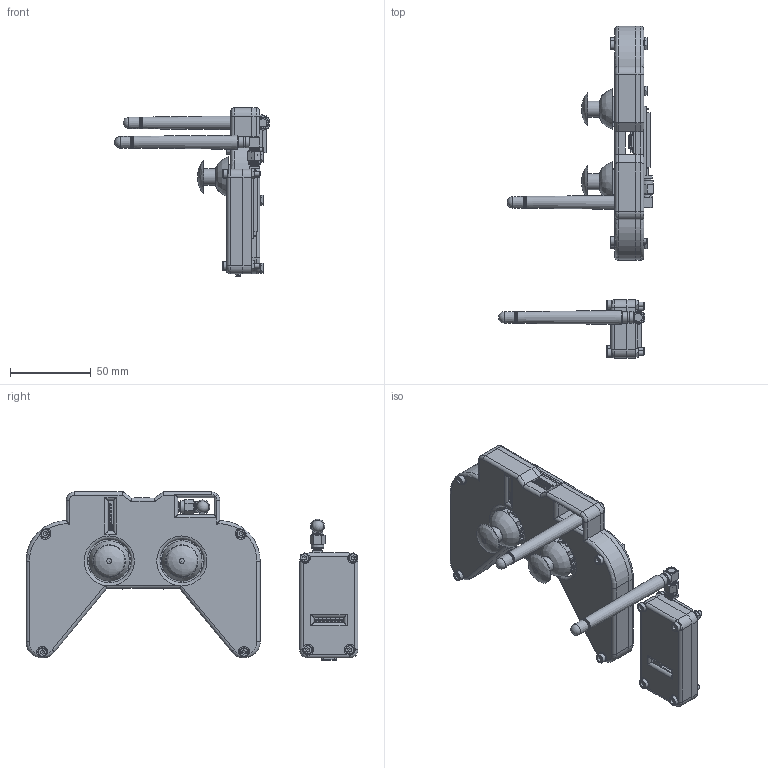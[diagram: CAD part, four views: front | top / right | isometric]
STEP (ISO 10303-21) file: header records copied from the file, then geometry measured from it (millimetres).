
FILE_DESCRIPTION(/* description */ ('STEP AP242 Edition 2','CAx-IF Rec.Pracs.---Representation and Presentation of Product Manufacturing Information (PMI)---4.0---2014-10-13','CAx-IF Rec.Pracs.---3D Tessellated Geometry---0.4---2014-09-14','2;1','CAx-IF Rec.Pracs.---User Defined Attributes---1.5---2016-08-15'),/* implementation_level */ '2;1');
FILE_NAME(/* name */ '6a3b4437305e1ec82755d887',/* time_stamp */ '2026-06-24T02:44:47Z',/* author */ (''),/* organization */ (''),/* preprocessor_version */ 'ST-DEVELOPER v20',/* originating_system */ 'ONSHAPE BY PTC INC, 1.216',/* authorisation */ ' ');
FILE_SCHEMA (('AP242_MANAGED_MODEL_BASED_3D_ENGINEERING_MIM_LF { 1 0 10303 442 3 1 4 }'));
Length unit declared in the file: metre
Products named in the file (65): Assembly 1; Hex nut grade A & B M3x0.5; Hex socket head cap screw M3x0.50 x 20; Hex socket head cap screw M3x0.50 x 10; Part 1; Antenna 868__F___ _________; E32-868T30D_Assembly_with_SPI_Header_and_Antenna <1>; Board_Varsay�lan; Pin Header 1x7 TH Pitch 2.54mm.stp_Varsay�l
an; SMA-K Connector_Varsay�lan; XIAO-ESP32S3 v2 <1>; Seeed Studio XIAO-ESP32-S3 (Sense) <1>; Seeed Studio XIAO-ESP32-S3 (Sense); U.FL-R-SMT-1_10_ v1; SKTAAAE010 v1 (1) <1>; Pins; Body; SKTAAAE010 v1 <1>; Shield; USB TYPE C PORT <1>; USB TYPE C PORT (1) <1>; BOSS-EXTRUDE7_2_; BOSS-EXTRUDE7_7_; BOSS-EXTRUDE14_10_; CHAMFER9; BOSS-EXTRUDE7_5_; BOSS-EXTRUDE14_6_; BOSS-EXTRUDE14_9_; BOSS-EXTRUDE14_2_; CUT-EXTRUDE5; BOSS-EXTRUDE7_4_; BOSS-EXTRUDE7_8_; BOSS-EXTRUDE7_9_; BOSS-EXTRUDE14_11_; BOSS-EXTRUDE14_12_; BOSS-EXTRUDE14_1_; BOSS-EXTRUDE14_8_; BOSS-EXTRUDE7_3_; MIRROR2; BOSS-EXTRUDE7_1_ ...
Assembly tree (146 placements, depth 6):
  Assembly 1
    Hex nut grade A & B M3x0.5  x15
    Hex socket head cap screw M3x0.50 x 20  x8
    Hex socket head cap screw M3x0.50 x 10  x8
    Part 1  x2
    Antenna 868__F___ _________  x2
    Part 1
    Part 1
    E32-868T30D_Assembly_with_SPI_Header_and_Antenna <1>
      Board_Varsay�lan
      Pin Header 1x7 TH Pitch 2.54mm.stp_Varsay�l
an
      Pin Header 1x7 TH Pitch 2.54mm.stp_Varsay�l
an
      Pin Header 1x7 TH Pitch 2.54mm.stp_Varsay�l
an
      Pin Header 1x7 TH Pitch 2.54mm.stp_Varsay�l
an
      Pin Header 1x7 TH Pitch 2.54mm.stp_Varsay�l
an
      Pin Header 1x7 TH Pitch 2.54mm.stp_Varsay�l
an
      Pin Header 1x7 TH Pitch 2.54mm.stp_Varsay�l
an
      SMA-K Connector_Varsay�lan
      Pin Header 1x7 TH Pitch 2.54mm.stp_Varsay�l
an
    XIAO-ESP32S3 v2 <1>
      Seeed Studio XIAO-ESP32-S3 (Sense) <1>
        Seeed Studio XIAO-ESP32-S3 (Sense)
        U.FL-R-SMT-1_10_ v1
        SKTAAAE010 v1 (1) <1>
          Pins
          Pins
          Body
          Pins
          Pins
        SKTAAAE010 v1 <1>
          Pins
          Pins
          Pins
          Body
          Pins
        Shield
        USB TYPE C PORT <1>
          USB TYPE C PORT (1) <1>
            BOSS-EXTRUDE7_2_
            BOSS-EXTRUDE7_7_
            BOSS-EXTRUDE14_10_
            CHAMFER9
            BOSS-EXTRUDE7_5_
            BOSS-EXTRUDE14_6_
            BOSS-EXTRUDE14_9_
            BOSS-EXTRUDE14_2_
            CUT-EXTRUDE5
            BOSS-EXTRUDE7_4_
            BOSS-EXTRUDE7_8_
            BOSS-EXTRUDE7_9_
            BOSS-EXTRUDE14_11_
            BOSS-EXTRUDE14_12_
            BOSS-EXTRUDE14_1_
            BOSS-EXTRUDE14_8_
            BOSS-EXTRUDE7_3_
            MIRROR2
            BOSS-EXTRUDE7_1_
            BOSS-EXTRUDE14_4_
            BOSS-EXTRUDE7_6_
            BOSS-EXTRUDE14_7_
Bounding box: 96 x 205.59 x 104.15 mm (x, y, z)
Volume: 116351.4 mm3; surface area: 104552.7 mm2
Topology: 131 solids, 143 shells, 4077 faces, 10030 edges, 6347 vertices
Faces by surface type: plane 2812, cylinder 857, cone 230, torus 146, bspline 18, sphere 14
Full cylindrical faces by diameter (mm): 0.3 x8, 0.5 x6, 0.6 x4, 0.65 x2, 0.75 x24, 0.762 x2, 0.77 x4, 0.9 x22, 0.914 x2, 1.27 x4, 1.524 x16, 1.72 x2, 1.86 x2, 2 x4, 2.459 x15, 2.8 x2, 3 x34, 3.2 x16, 3.5 x2, 4.089 x2, 4.3 x2, 4.674 x2, 5 x4, 5.08 x2, 5.23 x2, 5.385 x2, 5.5 x35, 5.63 x2, 6 x10, 6.3 x2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
Entity records: 62247 total; most frequent: CARTESIAN_POINT 11738, DIRECTION 9350, ORIENTED_EDGE 8896, EDGE_CURVE 4448, LINE 3262, VECTOR 3262, AXIS2_PLACEMENT_3D 3044, VERTEX_POINT 2957
